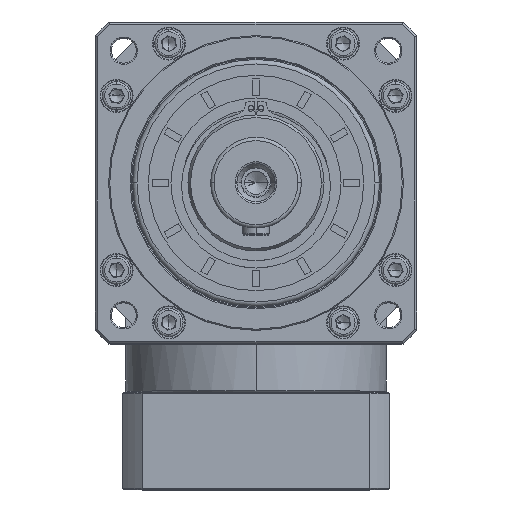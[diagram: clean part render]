
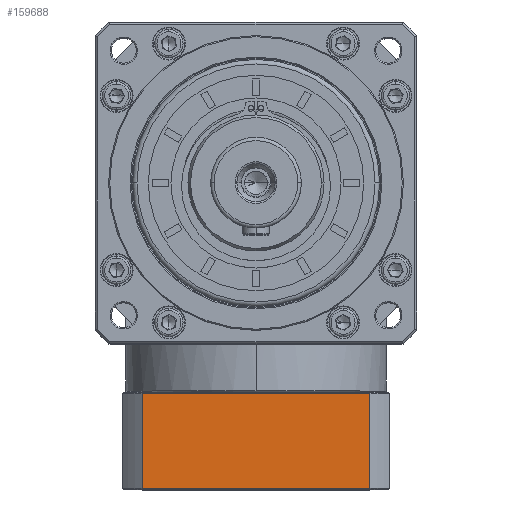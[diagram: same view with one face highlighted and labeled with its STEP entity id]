
A CAD part, top view. The second image highlights one B-rep face of the part: STEP entity #159688.
In plain terms, the highlighted planar face has unit normal (0, 0, 1).
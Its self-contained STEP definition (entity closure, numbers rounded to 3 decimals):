
#4344 = LINE ( 'NONE', #70982, #161673 ) ;
#9983 = VERTEX_POINT ( 'NONE', #152152 ) ;
#14231 = LINE ( 'NONE', #99152, #153821 ) ;
#19175 = EDGE_LOOP ( 'NONE', ( #79688, #176760, #46990, #84484 ) ) ;
#28803 = CARTESIAN_POINT ( 'NONE',  ( -236.088, -163.037, 88.445 ) ) ;
#37121 = DIRECTION ( 'NONE',  ( 0., 1., 0. ) ) ;
#46990 = ORIENTED_EDGE ( 'NONE', *, *, #150979, .F. ) ;
#59653 = VERTEX_POINT ( 'NONE', #173953 ) ;
#63182 = CARTESIAN_POINT ( 'NONE',  ( -236.088, -163.537, 88.445 ) ) ;
#67349 = CARTESIAN_POINT ( 'NONE',  ( -244.837, -163.537, 88.445 ) ) ;
#70982 = CARTESIAN_POINT ( 'NONE',  ( -244.837, -121.037, 88.445 ) ) ;
#79688 = ORIENTED_EDGE ( 'NONE', *, *, #102367, .F. ) ;
#84422 = VERTEX_POINT ( 'NONE', #128790 ) ;
#84484 = ORIENTED_EDGE ( 'NONE', *, *, #125130, .F. ) ;
#92501 = VECTOR ( 'NONE', #142393, 1000. ) ;
#93027 = AXIS2_PLACEMENT_3D ( 'NONE', #67349, #152813, #166448 ) ;
#94802 = LINE ( 'NONE', #102682, #92501 ) ;
#95238 = EDGE_CURVE ( 'NONE', #84422, #59653, #4344, .T. ) ;
#99152 = CARTESIAN_POINT ( 'NONE',  ( -135.585, 100.858, 88.445 ) ) ;
#102073 = FACE_OUTER_BOUND ( 'NONE', #19175, .T. ) ;
#102367 = EDGE_CURVE ( 'NONE', #59653, #9983, #14231, .T. ) ;
#102682 = CARTESIAN_POINT ( 'NONE',  ( -244.837, -163.037, 88.445 ) ) ;
#115553 = DIRECTION ( 'NONE',  ( 1., 0., 0. ) ) ;
#125130 = EDGE_CURVE ( 'NONE', #9983, #150238, #94802, .T. ) ;
#128108 = PLANE ( 'NONE',  #93027 ) ;
#128790 = CARTESIAN_POINT ( 'NONE',  ( -236.088, -121.037, 88.445 ) ) ;
#130357 = VECTOR ( 'NONE', #37121, 1000. ) ;
#142393 = DIRECTION ( 'NONE',  ( -1., 0., 0. ) ) ;
#150238 = VERTEX_POINT ( 'NONE', #28803 ) ;
#150979 = EDGE_CURVE ( 'NONE', #150238, #84422, #152514, .T. ) ;
#152152 = CARTESIAN_POINT ( 'NONE',  ( -135.585, -163.037, 88.445 ) ) ;
#152514 = LINE ( 'NONE', #63182, #130357 ) ;
#152813 = DIRECTION ( 'NONE',  ( 0., 0., -1. ) ) ;
#153821 = VECTOR ( 'NONE', #175895, 1000. ) ;
#159688 = ADVANCED_FACE ( 'NONE', ( #102073 ), #128108, .F. ) ;
#161673 = VECTOR ( 'NONE', #115553, 1000. ) ;
#166448 = DIRECTION ( 'NONE',  ( -1., 0., 0. ) ) ;
#173953 = CARTESIAN_POINT ( 'NONE',  ( -135.585, -121.037, 88.445 ) ) ;
#175895 = DIRECTION ( 'NONE',  ( 0., -1., 0. ) ) ;
#176760 = ORIENTED_EDGE ( 'NONE', *, *, #95238, .F. ) ;
